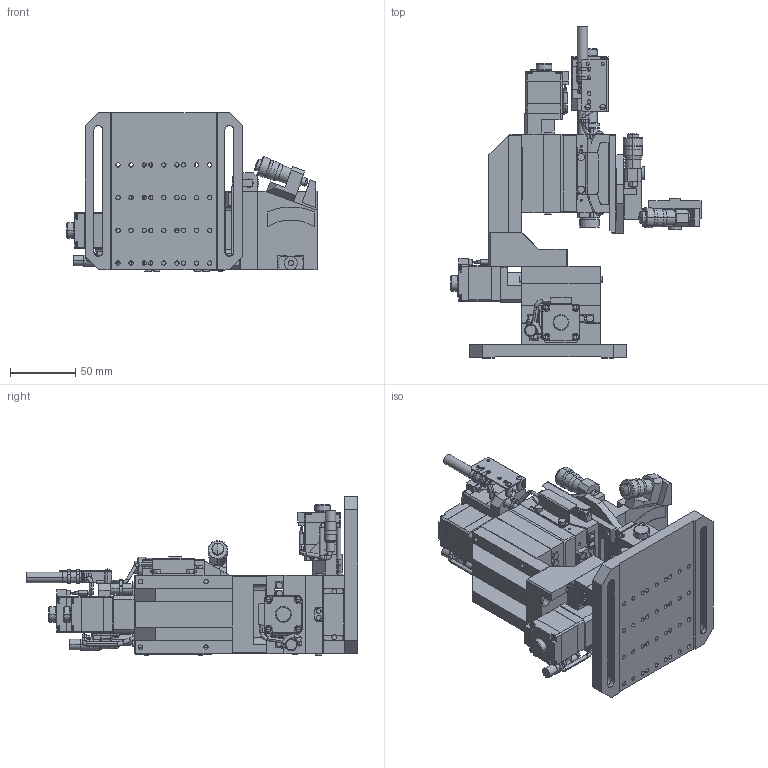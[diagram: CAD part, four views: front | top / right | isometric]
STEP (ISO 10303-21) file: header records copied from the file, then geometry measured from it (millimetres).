
FILE_DESCRIPTION (( 'STEP AP214' ), '1' );
FILE_NAME ('ES4001A-L.STEP', '2017-03-13T00:38:41', ( '' ), ( '' ), 'SwSTEP 2.0', 'SolidWorks 2017', '' );
FILE_SCHEMA (( 'AUTOMOTIVE_DESIGN' ));
Length unit declared in the file: millimetre
Products named in the file (25): Copy (2) of KXC06020-G^000-OST-ES4001A-L; Copy of B50-60LN^000-OST-ES4001A-L; Copy of KXC06020-G-2^Copy (2) of KXC06020-G_000-OST-ES4001A-L; Copy of B50-60LN-5^Copy of B50-60LN_000-OST-ES4001A-L; Copy of KXC06020-G-1^Copy (2) of KXC06020-G_000-OST-ES4001A-L; Copy of B50-60LN-4^Copy of B50-60LN_000-OST-ES4001A-L; Copy of KXC06020-G^000-OST-ES4001A-L; Copy of B50-60LN-3^Copy of B50-60LN_000-OST-ES4001A-L; Copy of KXC06020-G-2^Copy of KXC06020-G_000-OST-ES4001A-L; Copy of B50-60LN-2^Copy of B50-60LN_000-OST-ES4001A-L; Copy of KXC06020-G-1^Copy of KXC06020-G_000-OST-ES4001A-L; Copy of B50-60LN-1^Copy of B50-60LN_000-OST-ES4001A-L; Copy of A24-1^000-OST-ES4001A-L; Copy of A49-17^000-OST-ES4001A-L; Copy of KGW06050-L^000-OST-ES4001A-L; ES4001A-L; Copy of KGW06050-L-2^Copy of KGW06050-L_000-OST-ES4001A-L; Copy of KGW06050-L-1^Copy of KGW06050-L_000-OST-ES4001A-L; Copy of A49-C^000-OST-ES4001A-L; Copy of A49-J^000-OST-ES4001A-L; Copy (3) of KXC06020-G^000-OST-ES4001A-L; Copy of KXC06020-G-2^Copy (3) of KXC06020-G_000-OST-ES4001A-L; Copy of KXC06020-G-1^Copy (3) of KXC06020-G_000-OST-ES4001A-L; Copy of A47-112-01A^000-OST-ES4001A-L; Copy of EA47-112-01A^000-OST-ES4001A-L
Assembly tree (24 placements, depth 3):
  ES4001A-L
    Copy of A24-1^000-OST-ES4001A-L
    Copy of KXC06020-G^000-OST-ES4001A-L
      Copy of KXC06020-G-1^Copy of KXC06020-G_000-OST-ES4001A-L
      Copy of KXC06020-G-2^Copy of KXC06020-G_000-OST-ES4001A-L
    Copy (2) of KXC06020-G^000-OST-ES4001A-L
      Copy of KXC06020-G-1^Copy (2) of KXC06020-G_000-OST-ES4001A-L
      Copy of KXC06020-G-2^Copy (2) of KXC06020-G_000-OST-ES4001A-L
    Copy of EA47-112-01A^000-OST-ES4001A-L
    Copy of A47-112-01A^000-OST-ES4001A-L
    Copy (3) of KXC06020-G^000-OST-ES4001A-L
      Copy of KXC06020-G-1^Copy (3) of KXC06020-G_000-OST-ES4001A-L
      Copy of KXC06020-G-2^Copy (3) of KXC06020-G_000-OST-ES4001A-L
    Copy of A49-J^000-OST-ES4001A-L
    Copy of A49-C^000-OST-ES4001A-L
    Copy of KGW06050-L^000-OST-ES4001A-L
      Copy of KGW06050-L-1^Copy of KGW06050-L_000-OST-ES4001A-L
      Copy of KGW06050-L-2^Copy of KGW06050-L_000-OST-ES4001A-L
    Copy of A49-17^000-OST-ES4001A-L
    Copy of B50-60LN^000-OST-ES4001A-L
      Copy of B50-60LN-1^Copy of B50-60LN_000-OST-ES4001A-L
      Copy of B50-60LN-2^Copy of B50-60LN_000-OST-ES4001A-L
      Copy of B50-60LN-3^Copy of B50-60LN_000-OST-ES4001A-L
      Copy of B50-60LN-4^Copy of B50-60LN_000-OST-ES4001A-L
      Copy of B50-60LN-5^Copy of B50-60LN_000-OST-ES4001A-L
Bounding box: 191 x 253.5 x 121.4 mm (x, y, z)
Volume: 897628.6 mm3; surface area: 315324.3 mm2
Topology: 19 solids, 19 shells, 3237 faces, 8736 edges, 5565 vertices
Faces by surface type: plane 1654, cylinder 1170, bspline 222, cone 191
Entity records: 107621 total; most frequent: CARTESIAN_POINT 24317, DIRECTION 17402, ORIENTED_EDGE 17152, EDGE_CURVE 8576, AXIS2_PLACEMENT_3D 6056, VERTEX_POINT 5556, VECTOR 5290, LINE 5290
